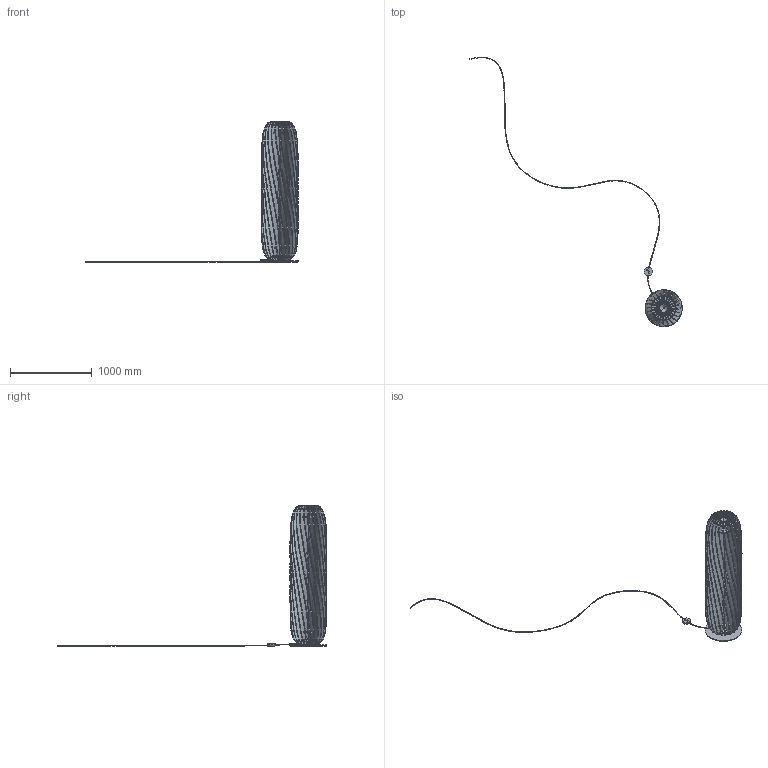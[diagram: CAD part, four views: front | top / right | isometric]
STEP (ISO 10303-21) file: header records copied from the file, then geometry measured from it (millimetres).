
FILE_DESCRIPTION(/* description */ (''),/* implementation_level */ '2;1');
FILE_NAME(/* name */ 'Twist Floor STEP',/* time_stamp */ '2024-12-23T15:02:45+01:00',/* author */ (''),/* organization */ (''),/* preprocessor_version */ 'ST-DEVELOPER v16.5',/* originating_system */ 'Rhino 7.37',/* authorisation */ '');
FILE_SCHEMA (('CONFIG_CONTROL_DESIGN'));
Length unit declared in the file: millimetre
Products named in the file (1): Document
Bounding box: 2592.52 x 3290.28 x 1711.33 mm (x, y, z)
Volume: 61637883.6 mm3; surface area: 14335689.9 mm2
Topology: 8 solids, 8 shells, 1762 faces, 5402 edges, 3498 vertices
Faces by surface type: plane 946, bspline 468, cylinder 348
Entity records: 93387 total; most frequent: CARTESIAN_POINT 61055, ORIENTED_EDGE 10792, EDGE_CURVE 5396, VERTEX_POINT 3496, B_SPLINE_CURVE_WITH_KNOTS 3136, EDGE_LOOP 1806, ADVANCED_FACE 1762, FACE_OUTER_BOUND 1762
